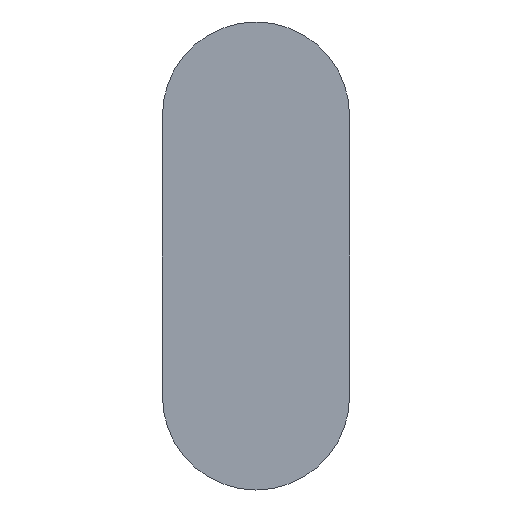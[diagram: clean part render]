
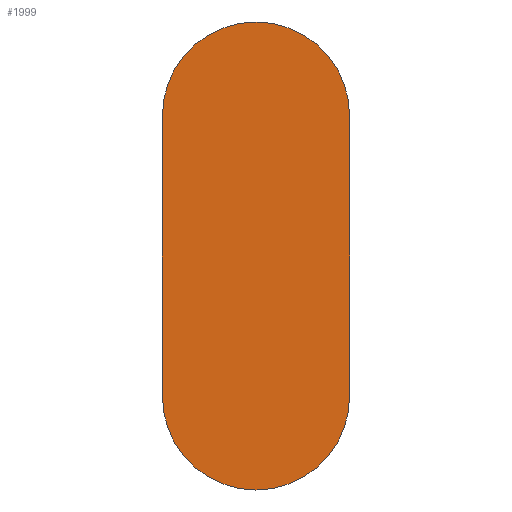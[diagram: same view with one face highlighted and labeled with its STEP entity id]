
A CAD part, front view. The second image highlights one B-rep face of the part: STEP entity #1999.
In plain terms, the highlighted planar face has unit normal (0, -1, 0).
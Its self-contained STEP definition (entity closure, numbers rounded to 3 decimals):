
#29 = VERTEX_POINT ( 'NONE', #1543 ) ;
#30 = VECTOR ( 'NONE', #1369, 1000. ) ;
#54 = CARTESIAN_POINT ( 'NONE',  ( -12., 0., 0. ) ) ;
#79 = CARTESIAN_POINT ( 'NONE',  ( 12., 0., 8. ) ) ;
#156 = VECTOR ( 'NONE', #2212, 1000. ) ;
#172 = DIRECTION ( 'NONE',  ( 0., 0., -1. ) ) ;
#240 = DIRECTION ( 'NONE',  ( 0., 0., -1. ) ) ;
#267 = EDGE_CURVE ( 'NONE', #1200, #29, #840, .T. ) ;
#374 = ORIENTED_EDGE ( 'NONE', *, *, #267, .F. ) ;
#401 = CARTESIAN_POINT ( 'NONE',  ( 12., 0., 8. ) ) ;
#559 = CARTESIAN_POINT ( 'NONE',  ( -12., 0., -8. ) ) ;
#577 = EDGE_CURVE ( 'NONE', #29, #692, #1435, .T. ) ;
#692 = VERTEX_POINT ( 'NONE', #401 ) ;
#699 = CARTESIAN_POINT ( 'NONE',  ( -12., 0., 0. ) ) ;
#710 = LINE ( 'NONE', #559, #156 ) ;
#791 = ORIENTED_EDGE ( 'NONE', *, *, #577, .F. ) ;
#807 = CARTESIAN_POINT ( 'NONE',  ( -12., 0., -8. ) ) ;
#840 = CIRCLE ( 'NONE', #1347, 8. ) ;
#842 = EDGE_CURVE ( 'NONE', #2059, #1200, #710, .T. ) ;
#876 = CIRCLE ( 'NONE', #1211, 8. ) ;
#889 = DIRECTION ( 'NONE',  ( 0., 0., -1. ) ) ;
#1065 = EDGE_LOOP ( 'NONE', ( #374, #1391, #2070, #791 ) ) ;
#1084 = AXIS2_PLACEMENT_3D ( 'NONE', #699, #1971, #889 ) ;
#1200 = VERTEX_POINT ( 'NONE', #807 ) ;
#1211 = AXIS2_PLACEMENT_3D ( 'NONE', #2373, #1283, #172 ) ;
#1275 = CARTESIAN_POINT ( 'NONE',  ( 12., 0., -8. ) ) ;
#1283 = DIRECTION ( 'NONE',  ( 0., 1., 0. ) ) ;
#1340 = DIRECTION ( 'NONE',  ( 0., 1., 0. ) ) ;
#1347 = AXIS2_PLACEMENT_3D ( 'NONE', #54, #1340, #240 ) ;
#1369 = DIRECTION ( 'NONE',  ( 1., 0., 0. ) ) ;
#1391 = ORIENTED_EDGE ( 'NONE', *, *, #842, .F. ) ;
#1410 = FACE_OUTER_BOUND ( 'NONE', #1065, .T. ) ;
#1435 = LINE ( 'NONE', #79, #30 ) ;
#1543 = CARTESIAN_POINT ( 'NONE',  ( -12., 0., 8. ) ) ;
#1802 = PLANE ( 'NONE',  #1084 ) ;
#1971 = DIRECTION ( 'NONE',  ( 0., -1., 0. ) ) ;
#1999 = ADVANCED_FACE ( 'NONE', ( #1410 ), #1802, .T. ) ;
#2051 = EDGE_CURVE ( 'NONE', #692, #2059, #876, .T. ) ;
#2059 = VERTEX_POINT ( 'NONE', #1275 ) ;
#2070 = ORIENTED_EDGE ( 'NONE', *, *, #2051, .F. ) ;
#2212 = DIRECTION ( 'NONE',  ( -1., 0., 0. ) ) ;
#2373 = CARTESIAN_POINT ( 'NONE',  ( 12., 0., 0. ) ) ;
